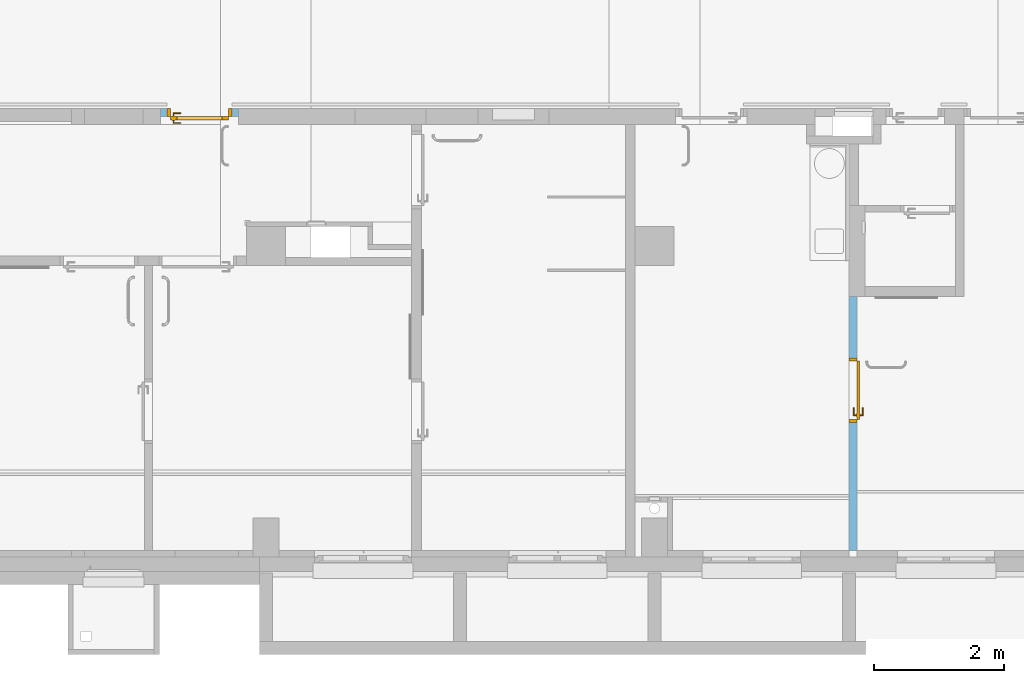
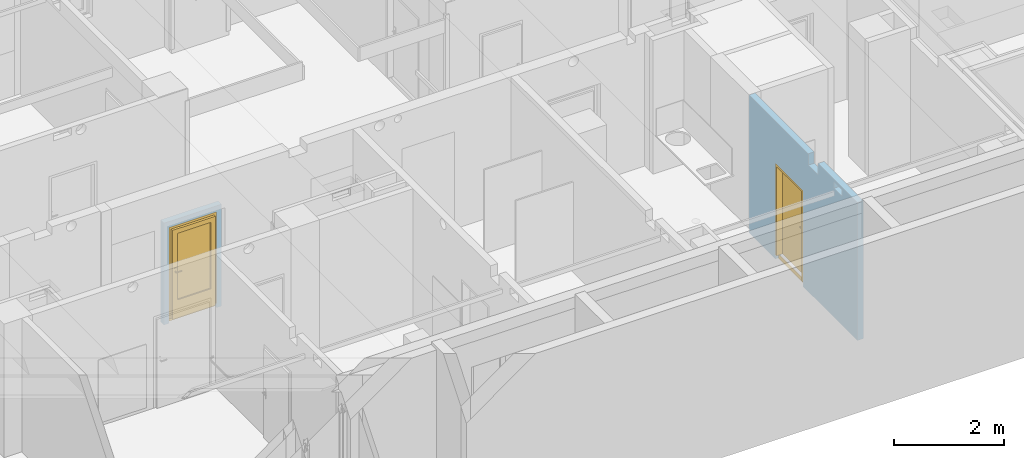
# One storey, part 53 of 84: 2 doors, 4 openings, plus 2 elements that do not belong to this part.
"""IFC4 building model written with IfcOpenShell, lengths in metres."""

from ifc_helpers import new_model, entity, si_unit, converted_unit, derived_unit, frame, frame_2d, origin, origin_with_axes, place, context, subcontext, project, spatial, polyline, rectangle, outline, extrude, closed_shell, open_shell, surface_model, source, transform, mapped, material, layer, layer_set, layer_usage, type_object, element, fill, save


model = new_model("IFC4")

# Units and contexts
model_context = context("Model", 3, precision=1e-05, world=origin())
body_context = subcontext(model_context, "Body", "Model", "MODEL_VIEW")
ifc_project = project(units=[si_unit("LENGTHUNIT", "METRE"), si_unit("AREAUNIT", "SQUARE_METRE"), si_unit("VOLUMEUNIT", "CUBIC_METRE"), si_unit("MASSUNIT", "GRAM", prefix="KILO"), converted_unit("PLANEANGLEUNIT", "DEGREE", entity("IfcPlaneAngleMeasure", 0.0174532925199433), si_unit("PLANEANGLEUNIT", "RADIAN"), dimensions=[0, 0, 0, 0, 0, 0, 0]), derived_unit("THERMALTRANSMITTANCEUNIT", [(si_unit("POWERUNIT", "WATT"), 1), (si_unit("THERMODYNAMICTEMPERATUREUNIT", "KELVIN"), -1), (si_unit("LENGTHUNIT", "METRE"), -2)]), derived_unit("VOLUMETRICFLOWRATEUNIT", [(si_unit("LENGTHUNIT", "METRE"), 3), (converted_unit("TIMEUNIT", "hour", entity("IfcTimeMeasure", 3600.0), si_unit("TIMEUNIT", "SECOND"), dimensions=[0, 0, 1, 0, 0, 0, 0]), -1), (si_unit("LENGTHUNIT", "METRE"), -1)])], contexts=[model_context])

# Site, building, storey
site_placement = place(None, origin())
site = spatial("IfcSite", under=ifc_project, at=site_placement, Name="3. ASŘ", CompositionType="ELEMENT")
building_placement = place(site_placement, origin())
building = spatial("IfcBuilding", under=site, at=building_placement, Name="Pavilon C", CompositionType="ELEMENT")
storey_placement = place(building_placement, frame((0.0, 0.0, -3.3)))
storey = spatial("IfcBuildingStorey", under=building, at=storey_placement, Name="Půdorys 1.PP", CompositionType="ELEMENT", Elevation=-3.3)

# Wall, opening, door
ifc_material_1 = material(Name="YTONG 125")
ifc_layer_1 = layer(ifc_material_1, 0.125)
ifc_layer_set_1 = layer_set([ifc_layer_1])
ifc_layer_usage_1 = layer_usage(ifc_layer_set_1, "AXIS2", "POSITIVE", 0.0)
wall_1_placement = place(storey_placement, frame((11.575, 7.525, -0.1), z_axis=(0.0, 0.0, 1.0), x_axis=(-1.0, 0.0, 0.0)))
wall_1 = element("IfcWall", 1, at=wall_1_placement, inside=storey, material=ifc_layer_usage_1, Name="YTONG 125", context=body_context, shape_type="SweptSolid", body=[
    extrude(rectangle(XDim=1.2, YDim=0.125, at=frame_2d((0.6, 0.0625), x_axis=(1.0, 0.0))), origin_with_axes(), (0.0, 0.0, 1.0), 2.25),
])
opening_1_placement = place(wall_1_placement, frame((1.1, 0.125, 0.0), z_axis=(0.0, -1.0, 0.0), x_axis=(0.0, 0.0, 1.0)))
opening_1 = element("IfcOpeningElement", 2, at=opening_1_placement, cuts=wall_1, Name="Dveřní otvor", ObjectType="Opening", context=body_context, shape_type="SweptSolid", body=[
    extrude(outline(polyline([(0.0, 1.0), (2.12, 1.0), (2.12, 0.0), (0.0, 0.0), (0.0, 1.0)])), origin_with_axes(), (0.0, 0.0, 1.0), 0.125),
])
door_type_1 = type_object("IfcDoorType", Name="I.D024", OperationType="NOTDEFINED", ParameterTakesPrecedence=False, PredefinedType="DOOR")
shared_shape_1 = source(origin_with_axes(), body_context, "Body", "SurfaceModel", [
    surface_model("IfcShellBasedSurfaceModel", [(0.0, 0.0625, 0.0), (1.0, 0.0625, 0.0), (1.0, 0.0625, 0.1), (0.0, 0.0625, 0.1)], [open_shell([[[0, 1, 2, 3]]], orient=[[False]])]),
    surface_model("IfcShellBasedSurfaceModel", [(0.0, 0.125, 2.12), (0.0, 0.125, 0.101), (0.05, 0.125, 0.101), (0.05, 0.125, 2.12), (0.0, 0.0, 0.101), (0.0, 2.41584530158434e-16, 2.12), (0.05, 2.41584530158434e-16, 2.12), (0.05, 0.0, 0.101)], [closed_shell([[[0, 1, 2, 3]], [[4, 5, 6, 7]], [[1, 0, 5, 4]], [[2, 1, 4, 7]], [[3, 2, 7, 6]], [[0, 3, 6, 5]]], orient=[[False], [False], [False], [False], [False], [False]])]),
    surface_model("IfcShellBasedSurfaceModel", [(0.95, 0.125, 2.12), (0.95, 0.125, 0.101), (1.0, 0.125, 0.101), (1.0, 0.125, 2.12), (0.95, 0.0, 0.101), (0.95, 2.41584530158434e-16, 2.12), (1.0, 2.41584530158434e-16, 2.12), (1.0, 0.0, 0.101)], [closed_shell([[[0, 1, 2, 3]], [[4, 5, 6, 7]], [[1, 0, 5, 4]], [[2, 1, 4, 7]], [[3, 2, 7, 6]], [[0, 3, 6, 5]]], orient=[[False], [False], [False], [False], [False], [False]])]),
    surface_model("IfcShellBasedSurfaceModel", [(0.05, 0.125, 2.12), (0.05, 0.125, 2.07), (0.95, 0.125, 2.07), (0.95, 0.125, 2.12), (0.05, 2.41584530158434e-16, 2.07), (0.05, 2.41584530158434e-16, 2.12), (0.95, 2.41584530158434e-16, 2.12), (0.95, 2.41584530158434e-16, 2.07)], [closed_shell([[[0, 1, 2, 3]], [[4, 5, 6, 7]], [[1, 0, 5, 4]], [[2, 1, 4, 7]], [[3, 2, 7, 6]], [[0, 3, 6, 5]]], orient=[[False], [False], [False], [False], [False], [False]])]),
    surface_model("IfcShellBasedSurfaceModel", [(0.05, 0.175, 2.07), (0.05, 0.175, 0.101), (0.15, 0.175, 0.101), (0.15, 0.175, 2.07), (0.05, 0.125, 0.101), (0.05, 0.125, 2.07), (0.15, 0.125, 2.07), (0.15, 0.125, 0.101)], [closed_shell([[[0, 1, 2, 3]], [[4, 5, 6, 7]], [[1, 0, 5, 4]], [[2, 1, 4, 7]], [[3, 2, 7, 6]], [[0, 3, 6, 5]]], orient=[[False], [False], [False], [False], [False], [False]])]),
    surface_model("IfcShellBasedSurfaceModel", [(0.85, 0.175, 2.07), (0.85, 0.175, 0.101), (0.95, 0.175, 0.101), (0.95, 0.175, 2.07), (0.85, 0.125, 0.101), (0.85, 0.125, 2.07), (0.95, 0.125, 2.07), (0.95, 0.125, 0.101)], [closed_shell([[[0, 1, 2, 3]], [[4, 5, 6, 7]], [[1, 0, 5, 4]], [[2, 1, 4, 7]], [[3, 2, 7, 6]], [[0, 3, 6, 5]]], orient=[[False], [False], [False], [False], [False], [False]])]),
    surface_model("IfcShellBasedSurfaceModel", [(0.15, 0.175, 0.501), (0.15, 0.175, 0.101), (0.85, 0.175, 0.101), (0.85, 0.175, 0.501), (0.15, 0.125, 0.101), (0.15, 0.125, 0.501), (0.85, 0.125, 0.501), (0.85, 0.125, 0.101)], [closed_shell([[[0, 1, 2, 3]], [[4, 5, 6, 7]], [[1, 0, 5, 4]], [[2, 1, 4, 7]], [[3, 2, 7, 6]], [[0, 3, 6, 5]]], orient=[[False], [False], [False], [False], [False], [False]])]),
    surface_model("IfcShellBasedSurfaceModel", [(0.15, 0.175, 2.07), (0.15, 0.175, 1.97), (0.85, 0.175, 1.97), (0.85, 0.175, 2.07), (0.15, 0.125, 1.97), (0.15, 0.125, 2.07), (0.85, 0.125, 2.07), (0.85, 0.125, 1.97)], [closed_shell([[[0, 1, 2, 3]], [[4, 5, 6, 7]], [[1, 0, 5, 4]], [[2, 1, 4, 7]], [[3, 2, 7, 6]], [[0, 3, 6, 5]]], orient=[[False], [False], [False], [False], [False], [False]])]),
    surface_model("IfcShellBasedSurfaceModel", [(0.875, 0.125, 1.226), (0.875, 0.125, 1.011), (0.925, 0.125, 1.011), (0.925, 0.125, 1.226), (0.875, 0.115, 1.011), (0.875, 0.115, 1.226), (0.925, 0.115, 1.226), (0.925, 0.115, 1.011)], [closed_shell([[[0, 1, 2, 3]], [[4, 5, 6, 7]], [[1, 0, 5, 4]], [[2, 1, 4, 7]], [[3, 2, 7, 6]], [[0, 3, 6, 5]]], orient=[[False], [False], [False], [False], [False], [False]])]),
    surface_model("IfcShellBasedSurfaceModel", [(0.9, 0.115, 1.161), (0.895, 0.115, 1.15966025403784), (0.891339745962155, 0.115, 1.156), (0.89, 0.115, 1.151), (0.891339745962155, 0.115, 1.146), (0.895, 0.115, 1.14233974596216), (0.9, 0.115, 1.141), (0.905, 0.115, 1.14233974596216), (0.908660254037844, 0.115, 1.146), (0.91, 0.115, 1.151), (0.908660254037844, 0.115, 1.156), (0.905, 0.115, 1.15966025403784), (0.905, 0.0700000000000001, 1.15966025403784), (0.9, 0.0750000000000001, 1.161), (0.908660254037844, 0.0663397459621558, 1.156), (0.91, 0.0650000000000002, 1.151), (0.908660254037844, 0.0663397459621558, 1.146), (0.905, 0.0700000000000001, 1.14233974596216), (0.9, 0.0750000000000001, 1.141), (0.895, 0.0800000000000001, 1.14233974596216), (0.891339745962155, 0.0836602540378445, 1.146), (0.89, 0.0850000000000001, 1.151), (0.891339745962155, 0.0836602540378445, 1.156), (0.895, 0.0800000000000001, 1.15966025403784), (0.785, 0.0700000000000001, 1.15966025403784), (0.785, 0.0750000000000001, 1.161), (0.785, 0.0663397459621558, 1.156), (0.785, 0.0650000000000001, 1.151), (0.785, 0.0663397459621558, 1.146), (0.785, 0.0700000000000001, 1.14233974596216), (0.785, 0.0750000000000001, 1.141), (0.785, 0.0800000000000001, 1.14233974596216), (0.785, 0.0836602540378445, 1.146), (0.785, 0.0850000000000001, 1.151), (0.785, 0.0836602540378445, 1.156), (0.785, 0.0800000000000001, 1.15966025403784)], [open_shell([[[0, 1, 2, 3, 4, 5, 6, 7, 8, 9, 10, 11]], [[0, 11, 12, 13]], [[11, 10, 14, 12]], [[10, 9, 15, 14]], [[9, 8, 16, 15]], [[8, 7, 17, 16]], [[7, 6, 18, 17]], [[6, 5, 19, 18]], [[5, 4, 20, 19]], [[4, 3, 21, 20]], [[3, 2, 22, 21]], [[2, 1, 23, 22]], [[1, 0, 13, 23]], [[13, 12, 24, 25]], [[12, 14, 26, 24]], [[14, 15, 27, 26]], [[15, 16, 28, 27]], [[16, 17, 29, 28]], [[17, 18, 30, 29]], [[18, 19, 31, 30]], [[19, 20, 32, 31]], [[20, 21, 33, 32]], [[21, 22, 34, 33]], [[22, 23, 35, 34]], [[23, 13, 25, 35]]], orient=[[False], [False], [False], [False], [False], [False], [False], [False], [False], [False], [False], [False], [False], [False], [False], [False], [False], [False], [False], [False], [False], [False], [False], [False], [False]])]),
    surface_model("IfcShellBasedSurfaceModel", [(0.875, 0.175, 1.226), (0.925, 0.175, 1.226), (0.925, 0.175, 1.011), (0.875, 0.175, 1.011), (0.875, 0.185, 1.011), (0.925, 0.185, 1.011), (0.925, 0.185, 1.226), (0.875, 0.185, 1.226)], [closed_shell([[[0, 1, 2, 3]], [[4, 5, 6, 7]], [[3, 4, 7, 0]], [[2, 5, 4, 3]], [[1, 6, 5, 2]], [[0, 7, 6, 1]]], orient=[[False], [False], [False], [False], [False], [False]])]),
    surface_model("IfcShellBasedSurfaceModel", [(0.9, 0.185, 1.161), (0.905, 0.185, 1.15966025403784), (0.908660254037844, 0.185, 1.156), (0.91, 0.185, 1.151), (0.908660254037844, 0.185, 1.146), (0.905, 0.185, 1.14233974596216), (0.9, 0.185, 1.141), (0.895, 0.185, 1.14233974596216), (0.891339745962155, 0.185, 1.146), (0.89, 0.185, 1.151), (0.891339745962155, 0.185, 1.156), (0.895, 0.185, 1.15966025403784), (0.9, 0.225, 1.161), (0.905, 0.23, 1.15966025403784), (0.908660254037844, 0.233660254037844, 1.156), (0.91, 0.235, 1.151), (0.908660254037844, 0.233660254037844, 1.146), (0.905, 0.23, 1.14233974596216), (0.9, 0.225, 1.141), (0.895, 0.22, 1.14233974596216), (0.891339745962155, 0.216339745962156, 1.146), (0.89, 0.215, 1.151), (0.891339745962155, 0.216339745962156, 1.156), (0.895, 0.22, 1.15966025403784), (0.785, 0.225, 1.161), (0.785, 0.23, 1.15966025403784), (0.785, 0.233660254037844, 1.156), (0.785, 0.235, 1.151), (0.785, 0.233660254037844, 1.146), (0.785, 0.23, 1.14233974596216), (0.785, 0.225, 1.141), (0.785, 0.22, 1.14233974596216), (0.785, 0.216339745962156, 1.146), (0.785, 0.215, 1.151), (0.785, 0.216339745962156, 1.156), (0.785, 0.22, 1.15966025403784)], [open_shell([[[0, 1, 2, 3, 4, 5, 6, 7, 8, 9, 10, 11]], [[0, 12, 13, 1]], [[1, 13, 14, 2]], [[2, 14, 15, 3]], [[3, 15, 16, 4]], [[4, 16, 17, 5]], [[5, 17, 18, 6]], [[6, 18, 19, 7]], [[7, 19, 20, 8]], [[8, 20, 21, 9]], [[9, 21, 22, 10]], [[10, 22, 23, 11]], [[11, 23, 12, 0]], [[12, 24, 25, 13]], [[13, 25, 26, 14]], [[14, 26, 27, 15]], [[15, 27, 28, 16]], [[16, 28, 29, 17]], [[17, 29, 30, 18]], [[18, 30, 31, 19]], [[19, 31, 32, 20]], [[20, 32, 33, 21]], [[21, 33, 34, 22]], [[22, 34, 35, 23]], [[23, 35, 24, 12]]], orient=[[False], [False], [False], [False], [False], [False], [False], [False], [False], [False], [False], [False], [False], [False], [False], [False], [False], [False], [False], [False], [False], [False], [False], [False], [False]])]),
    surface_model("IfcShellBasedSurfaceModel", [(0.15, 0.15, 0.501), (0.85, 0.15, 0.501), (0.85, 0.15, 1.97), (0.15, 0.15, 1.97)], [open_shell([[[0, 1, 2, 3]]], orient=[[False]])]),
])
door_1_placement = place(opening_1_placement, frame((0.0, 1.0, 0.125), z_axis=(1.0, 0.0, 0.0), x_axis=(0.0, -1.0, 1.22464679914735e-16)))
door_1 = element("IfcDoor", 3, at=door_1_placement, inside=storey, type_object=door_type_1, Name="I.D024", OverallHeight=2.12, OverallWidth=1.0, context=body_context, shape_type="MappedRepresentation", body=[
    mapped(shared_shape_1, transform((0.0, 0.0, 0.0), x_axis=(1.0, 0.0, 0.0), y_axis=(0.0, 1.0, 0.0), z_axis=(0.0, 0.0, 1.0), scale=1.0)),
])
fill(opening_1, door_1)

# Wall, openings, door
ifc_material_2 = material(Name="SDK - 1 KCE + DVOJITÉ OPLÁŠTĚNÍ")
ifc_layer_2 = layer(ifc_material_2, 0.125)
ifc_layer_set_2 = layer_set([ifc_layer_2])
ifc_layer_usage_2 = layer_usage(ifc_layer_set_2, "AXIS2", "POSITIVE", 0.0)
wall_2_placement = place(storey_placement, frame((21.125, 0.7, -0.1), z_axis=(0.0, 0.0, 1.0), x_axis=(0.0, 1.0, 0.0)))
wall_2 = element("IfcWall", 4, at=wall_2_placement, inside=storey, material=ifc_layer_usage_2, Name="SDK - 1 KCE + DVOJITÉ OPLÁŠTĚNÍ", context=body_context, shape_type="SweptSolid", body=[
    extrude(rectangle(XDim=3.925, YDim=0.125, at=frame_2d((1.9625, 0.0625), x_axis=(1.0, 0.0))), origin_with_axes(), (0.0, 0.0, 1.0), 3.05),
])
opening_2_placement = place(wall_2_placement, frame((1.975, 0.0, 0.0), z_axis=(0.0, 1.0, 0.0), x_axis=(0.0, 0.0, 1.0)))
opening_2 = element("IfcOpeningElement", 5, at=opening_2_placement, cuts=wall_2, Name="Dveřní otvor", ObjectType="Opening", context=body_context, shape_type="SweptSolid", body=[
    extrude(outline(polyline([(0.0, 1.0), (2.12, 1.0), (2.12, 0.0), (0.0, 0.0), (0.0, 1.0)])), origin_with_axes(), (0.0, 0.0, 1.0), 0.125),
])
opening_3_placement = place(wall_2_placement, frame((0.854958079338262, 0.125, 2.85), z_axis=(0.0, -1.0, 0.0), x_axis=(0.0, 0.0, 1.0)))
element("IfcOpeningElement", 6, at=opening_3_placement, cuts=wall_2, Name="UT", ObjectType="Opening", context=body_context, shape_type="SweptSolid", body=[
    extrude(outline(polyline([(0.0, 0.3), (0.15, 0.3), (0.15, 0.0), (0.0, 0.0), (0.0, 0.3)])), origin_with_axes(), (0.0, 0.0, 1.0), 0.125),
])
opening_4_placement = place(wall_2_placement, frame((1.78081088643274, 0.125, 2.8), z_axis=(0.0, -1.0, 0.0), x_axis=(0.0, 0.0, 1.0)))
element("IfcOpeningElement", 7, at=opening_4_placement, cuts=wall_2, Name="VZT", ObjectType="Opening", context=body_context, shape_type="SweptSolid", body=[
    extrude(outline(polyline([(0.0, 0.35), (0.25, 0.35), (0.25, 0.0), (0.0, 0.0), (0.0, 0.35)])), origin_with_axes(), (0.0, 0.0, 1.0), 0.125),
])
door_type_2 = type_object("IfcDoorType", Name="I.D020", OperationType="NOTDEFINED", ParameterTakesPrecedence=False, PredefinedType="DOOR")
shared_shape_2 = source(origin_with_axes(), body_context, "Body", "SurfaceModel", [
    surface_model("IfcShellBasedSurfaceModel", [(0.0, 0.1625, 0.0), (1.0, 0.1625, 0.0), (1.0, 0.1625, 0.1), (0.0, 0.1625, 0.1)], [open_shell([[[0, 1, 2, 3]]], orient=[[False]])]),
    surface_model("IfcShellBasedSurfaceModel", [(0.0, 0.225, 2.12), (0.0, 0.225, 0.101), (0.05, 0.225, 0.101), (0.05, 0.225, 2.12), (0.0, 0.0999999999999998, 0.101), (0.0, 0.1, 2.12), (0.05, 0.1, 2.12), (0.05, 0.0999999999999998, 0.101)], [closed_shell([[[0, 1, 2, 3]], [[4, 5, 6, 7]], [[1, 0, 5, 4]], [[2, 1, 4, 7]], [[3, 2, 7, 6]], [[0, 3, 6, 5]]], orient=[[False], [False], [False], [False], [False], [False]])]),
    surface_model("IfcShellBasedSurfaceModel", [(0.95, 0.225, 2.12), (0.95, 0.225, 0.101), (1.0, 0.225, 0.101), (1.0, 0.225, 2.12), (0.95, 0.0999999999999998, 0.101), (0.95, 0.1, 2.12), (1.0, 0.1, 2.12), (1.0, 0.0999999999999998, 0.101)], [closed_shell([[[0, 1, 2, 3]], [[4, 5, 6, 7]], [[1, 0, 5, 4]], [[2, 1, 4, 7]], [[3, 2, 7, 6]], [[0, 3, 6, 5]]], orient=[[False], [False], [False], [False], [False], [False]])]),
    surface_model("IfcShellBasedSurfaceModel", [(0.05, 0.225, 2.12), (0.05, 0.225, 2.07), (0.95, 0.225, 2.07), (0.95, 0.225, 2.12), (0.05, 0.1, 2.07), (0.05, 0.1, 2.12), (0.95, 0.1, 2.12), (0.95, 0.1, 2.07)], [closed_shell([[[0, 1, 2, 3]], [[4, 5, 6, 7]], [[1, 0, 5, 4]], [[2, 1, 4, 7]], [[3, 2, 7, 6]], [[0, 3, 6, 5]]], orient=[[False], [False], [False], [False], [False], [False]])]),
    surface_model("IfcShellBasedSurfaceModel", [(0.05, 0.1, 2.07), (0.05, 0.0999999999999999, 0.101), (0.95, 0.0999999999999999, 0.101), (0.95, 0.1, 2.07), (0.05, 0.0599999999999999, 0.101), (0.05, 0.0600000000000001, 2.07), (0.95, 0.0600000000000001, 2.07), (0.95, 0.0599999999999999, 0.101)], [closed_shell([[[0, 1, 2, 3]], [[4, 5, 6, 7]], [[1, 0, 5, 4]], [[2, 1, 4, 7]], [[3, 2, 7, 6]], [[0, 3, 6, 5]]], orient=[[False], [False], [False], [False], [False], [False]])]),
    surface_model("IfcShellBasedSurfaceModel", [(0.86, 0.06, 1.226), (0.86, 0.06, 1.011), (0.91, 0.06, 1.011), (0.91, 0.06, 1.226), (0.86, 0.05, 1.011), (0.86, 0.05, 1.226), (0.91, 0.05, 1.226), (0.91, 0.05, 1.011)], [closed_shell([[[0, 1, 2, 3]], [[4, 5, 6, 7]], [[1, 0, 5, 4]], [[2, 1, 4, 7]], [[3, 2, 7, 6]], [[0, 3, 6, 5]]], orient=[[False], [False], [False], [False], [False], [False]])]),
    surface_model("IfcShellBasedSurfaceModel", [(0.885, 0.05, 1.161), (0.88, 0.05, 1.15966025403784), (0.876339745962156, 0.05, 1.156), (0.875, 0.05, 1.151), (0.876339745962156, 0.05, 1.146), (0.88, 0.05, 1.14233974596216), (0.885, 0.05, 1.141), (0.89, 0.05, 1.14233974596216), (0.893660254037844, 0.05, 1.146), (0.895, 0.05, 1.151), (0.893660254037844, 0.05, 1.156), (0.89, 0.05, 1.15966025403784), (0.89, 0.005, 1.15966025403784), (0.885, 0.01, 1.161), (0.893660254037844, 0.00133974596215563, 1.156), (0.895, 0.0, 1.151), (0.893660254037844, 0.00133974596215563, 1.146), (0.89, 0.005, 1.14233974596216), (0.885, 0.01, 1.141), (0.88, 0.015, 1.14233974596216), (0.876339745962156, 0.0186602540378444, 1.146), (0.875, 0.02, 1.151), (0.876339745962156, 0.0186602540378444, 1.156), (0.88, 0.015, 1.15966025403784), (0.77, 0.005, 1.15966025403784), (0.77, 0.01, 1.161), (0.77, 0.0013397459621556, 1.156), (0.77, 0.0, 1.151), (0.77, 0.0013397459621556, 1.146), (0.77, 0.005, 1.14233974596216), (0.77, 0.01, 1.141), (0.77, 0.015, 1.14233974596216), (0.77, 0.0186602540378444, 1.146), (0.77, 0.02, 1.151), (0.77, 0.0186602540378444, 1.156), (0.77, 0.015, 1.15966025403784)], [open_shell([[[0, 1, 2, 3, 4, 5, 6, 7, 8, 9, 10, 11]], [[0, 11, 12, 13]], [[11, 10, 14, 12]], [[10, 9, 15, 14]], [[9, 8, 16, 15]], [[8, 7, 17, 16]], [[7, 6, 18, 17]], [[6, 5, 19, 18]], [[5, 4, 20, 19]], [[4, 3, 21, 20]], [[3, 2, 22, 21]], [[2, 1, 23, 22]], [[1, 0, 13, 23]], [[13, 12, 24, 25]], [[12, 14, 26, 24]], [[14, 15, 27, 26]], [[15, 16, 28, 27]], [[16, 17, 29, 28]], [[17, 18, 30, 29]], [[18, 19, 31, 30]], [[19, 20, 32, 31]], [[20, 21, 33, 32]], [[21, 22, 34, 33]], [[22, 23, 35, 34]], [[23, 13, 25, 35]]], orient=[[False], [False], [False], [False], [False], [False], [False], [False], [False], [False], [False], [False], [False], [False], [False], [False], [False], [False], [False], [False], [False], [False], [False], [False], [False]])]),
    surface_model("IfcShellBasedSurfaceModel", [(0.86, 0.1, 1.226), (0.91, 0.1, 1.226), (0.91, 0.1, 1.011), (0.86, 0.1, 1.011), (0.86, 0.11, 1.011), (0.91, 0.11, 1.011), (0.91, 0.11, 1.226), (0.86, 0.11, 1.226)], [closed_shell([[[0, 1, 2, 3]], [[4, 5, 6, 7]], [[3, 4, 7, 0]], [[2, 5, 4, 3]], [[1, 6, 5, 2]], [[0, 7, 6, 1]]], orient=[[False], [False], [False], [False], [False], [False]])]),
    surface_model("IfcShellBasedSurfaceModel", [(0.885, 0.11, 1.161), (0.89, 0.11, 1.15966025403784), (0.893660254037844, 0.11, 1.156), (0.895, 0.11, 1.151), (0.893660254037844, 0.11, 1.146), (0.89, 0.11, 1.14233974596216), (0.885, 0.11, 1.141), (0.88, 0.11, 1.14233974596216), (0.876339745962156, 0.11, 1.146), (0.875, 0.11, 1.151), (0.876339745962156, 0.11, 1.156), (0.88, 0.11, 1.15966025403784), (0.885, 0.15, 1.161), (0.89, 0.155, 1.15966025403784), (0.893660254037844, 0.158660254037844, 1.156), (0.895, 0.16, 1.151), (0.893660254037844, 0.158660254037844, 1.146), (0.89, 0.155, 1.14233974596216), (0.885, 0.15, 1.141), (0.88, 0.145, 1.14233974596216), (0.876339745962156, 0.141339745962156, 1.146), (0.875, 0.14, 1.151), (0.876339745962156, 0.141339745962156, 1.156), (0.88, 0.145, 1.15966025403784), (0.77, 0.15, 1.161), (0.77, 0.155, 1.15966025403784), (0.77, 0.158660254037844, 1.156), (0.77, 0.16, 1.151), (0.77, 0.158660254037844, 1.146), (0.77, 0.155, 1.14233974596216), (0.77, 0.15, 1.141), (0.77, 0.145, 1.14233974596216), (0.77, 0.141339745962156, 1.146), (0.77, 0.14, 1.151), (0.77, 0.141339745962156, 1.156), (0.77, 0.145, 1.15966025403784)], [open_shell([[[0, 1, 2, 3, 4, 5, 6, 7, 8, 9, 10, 11]], [[0, 12, 13, 1]], [[1, 13, 14, 2]], [[2, 14, 15, 3]], [[3, 15, 16, 4]], [[4, 16, 17, 5]], [[5, 17, 18, 6]], [[6, 18, 19, 7]], [[7, 19, 20, 8]], [[8, 20, 21, 9]], [[9, 21, 22, 10]], [[10, 22, 23, 11]], [[11, 23, 12, 0]], [[12, 24, 25, 13]], [[13, 25, 26, 14]], [[14, 26, 27, 15]], [[15, 27, 28, 16]], [[16, 28, 29, 17]], [[17, 29, 30, 18]], [[18, 30, 31, 19]], [[19, 31, 32, 20]], [[20, 32, 33, 21]], [[21, 33, 34, 22]], [[22, 34, 35, 23]], [[23, 35, 24, 12]]], orient=[[False], [False], [False], [False], [False], [False], [False], [False], [False], [False], [False], [False], [False], [False], [False], [False], [False], [False], [False], [False], [False], [False], [False], [False], [False]])]),
])
door_2_placement = place(opening_2_placement, frame((0.0, 1.0, -0.0999999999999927), z_axis=(1.0, 0.0, 0.0), x_axis=(0.0, -1.0, 1.22464679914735e-16)))
door_2 = element("IfcDoor", 8, at=door_2_placement, inside=storey, type_object=door_type_2, Name="I.D020", OverallHeight=2.12, OverallWidth=1.0, context=body_context, shape_type="MappedRepresentation", body=[
    mapped(shared_shape_2, transform((0.0, 0.0, 0.0), x_axis=(1.0, 0.0, 0.0), y_axis=(0.0, -1.0, 0.0), z_axis=(0.0, 0.0, 1.0), scale=1.0)),
])
fill(opening_2, door_2)

save(model, "model.ifc")
